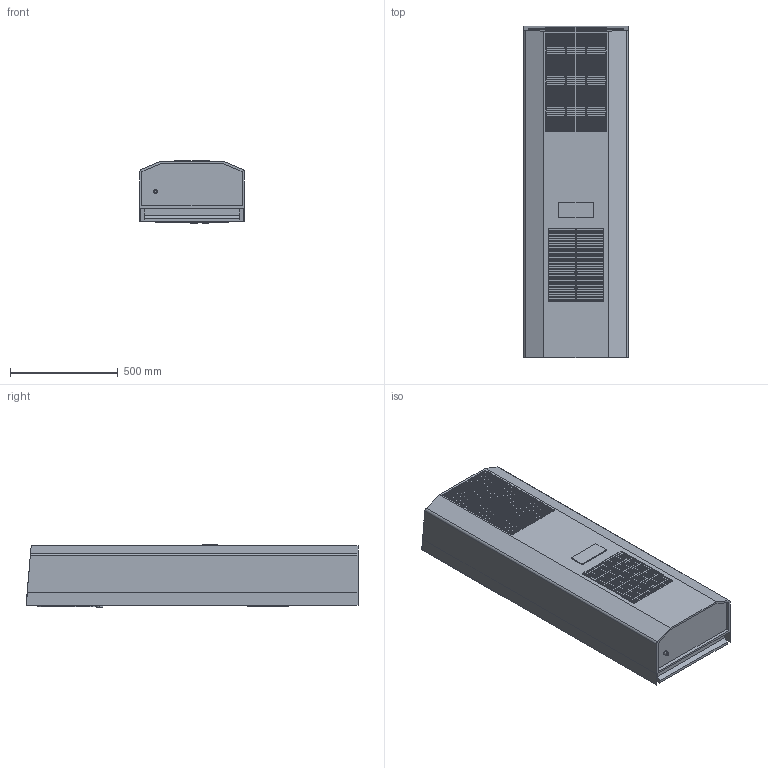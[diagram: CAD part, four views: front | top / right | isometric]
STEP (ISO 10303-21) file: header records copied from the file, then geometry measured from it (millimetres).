
FILE_DESCRIPTION (( 'STEP AP214' ), '1' );
FILE_NAME ('DTS 6X1E UL Download.STEP', '2023-09-21T09:05:34', ( '' ), ( '' ), 'SwSTEP 2.0', 'SolidWorks 2021', '' );
FILE_SCHEMA (( 'AUTOMOTIVE_DESIGN' ));
Length unit declared in the file: millimetre
Products named in the file (1): DTS 6X1E UL Download
Bounding box: 485 x 1543.42 x 292 mm (x, y, z)
Volume: 192582963.1 mm3; surface area: 4372642.9 mm2
Topology: 2 solids, 2 shells, 1853 faces, 4564 edges, 3042 vertices
Faces by surface type: plane 1001, cylinder 852
Entity records: 55264 total; most frequent: DIRECTION 9966, CARTESIAN_POINT 9475, ORIENTED_EDGE 9128, EDGE_CURVE 4564, AXIS2_PLACEMENT_3D 3553, VERTEX_POINT 3042, LINE 2860, VECTOR 2860
